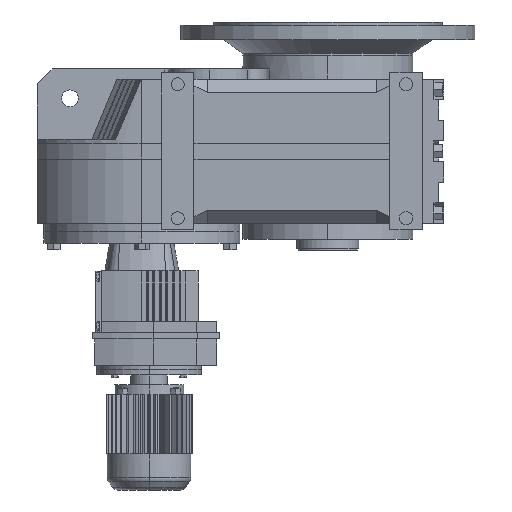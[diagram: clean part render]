
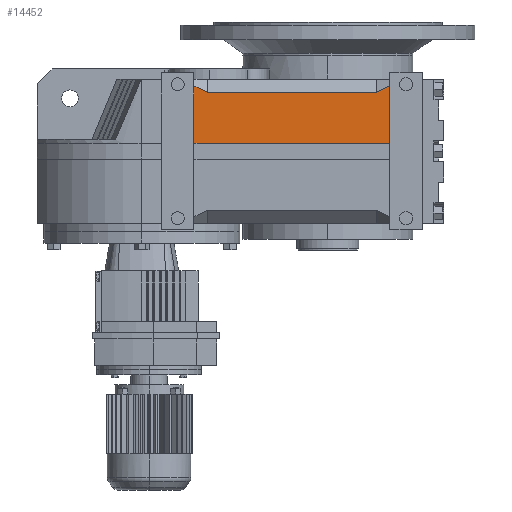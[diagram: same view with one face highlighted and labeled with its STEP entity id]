
A CAD part, left-side view. The second image highlights one B-rep face of the part: STEP entity #14452.
In plain terms, the highlighted planar face has unit normal (-1, 0, 0).
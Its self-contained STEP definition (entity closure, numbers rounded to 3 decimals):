
#318 = PLANE('',#319);
#319 = AXIS2_PLACEMENT_3D('',#320,#321,#322);
#320 = CARTESIAN_POINT('',(-162.4,-80.,3.));
#321 = DIRECTION('',(0.,-1.,0.));
#322 = DIRECTION('',(0.,0.,-1.));
#346 = PLANE('',#347);
#347 = AXIS2_PLACEMENT_3D('',#348,#349,#350);
#348 = CARTESIAN_POINT('',(-286.747,-80.,127.347));
#349 = DIRECTION('',(-0.664,-0.342,0.664));
#350 = DIRECTION('',(0.707,0.,0.707)
  );
#374 = PLANE('',#375);
#375 = AXIS2_PLACEMENT_3D('',#376,#377,#378);
#376 = CARTESIAN_POINT('',(-170.4,1.,233.4));
#377 = DIRECTION('',(-0.707,0.,0.707));
#378 = DIRECTION('',(0.707,0.,0.707));
#402 = PLANE('',#403);
#403 = AXIS2_PLACEMENT_3D('',#404,#405,#406);
#404 = CARTESIAN_POINT('',(-286.747,-380.,127.347));
#405 = DIRECTION('',(-0.664,0.342,0.664));
#406 = DIRECTION('',(0.707,0.,0.707)
  );
#430 = PLANE('',#431);
#431 = AXIS2_PLACEMENT_3D('',#432,#433,#434);
#432 = CARTESIAN_POINT('',(-162.4,-380.,3.));
#433 = DIRECTION('',(0.,1.,0.));
#434 = DIRECTION('',(0.,0.,1.));
#5556 = VERTEX_POINT('',#5557);
#5557 = CARTESIAN_POINT('',(-190.4,-360.,213.4));
#5578 = EDGE_CURVE('',#5579,#5556,#5581,.T.);
#5579 = VERTEX_POINT('',#5580);
#5580 = CARTESIAN_POINT('',(-190.4,-380.,223.695));
#5581 = SURFACE_CURVE('',#5582,(#5586,#5593),.PCURVE_S1.);
#5582 = LINE('',#5583,#5584);
#5583 = CARTESIAN_POINT('',(-190.4,-449.565,259.502));
#5584 = VECTOR('',#5585,1.);
#5585 = DIRECTION('',(0.,0.889,-0.458));
#5586 = PCURVE('',#402,#5587);
#5587 = DEFINITIONAL_REPRESENTATION('',(#5588),#5592);
#5588 = LINE('',#5589,#5590);
#5589 = CARTESIAN_POINT('',(161.575,-74.029));
#5590 = VECTOR('',#5591,1.);
#5591 = DIRECTION('',(-0.324,0.946));
#5592 = ( GEOMETRIC_REPRESENTATION_CONTEXT(2) 
PARAMETRIC_REPRESENTATION_CONTEXT() REPRESENTATION_CONTEXT('2D SPACE',''
  ) );
#5593 = PCURVE('',#5594,#5599);
#5594 = PLANE('',#5595);
#5595 = AXIS2_PLACEMENT_3D('',#5596,#5597,#5598);
#5596 = CARTESIAN_POINT('',(-190.4,-463.,233.4));
#5597 = DIRECTION('',(1.,0.,0.));
#5598 = DIRECTION('',(0.,0.,-1.));
#5599 = DEFINITIONAL_REPRESENTATION('',(#5600),#5604);
#5600 = LINE('',#5601,#5602);
#5601 = CARTESIAN_POINT('',(-26.102,13.435));
#5602 = VECTOR('',#5603,1.);
#5603 = DIRECTION('',(0.458,0.889));
#5604 = ( GEOMETRIC_REPRESENTATION_CONTEXT(2) 
PARAMETRIC_REPRESENTATION_CONTEXT() REPRESENTATION_CONTEXT('2D SPACE',''
  ) );
#7061 = EDGE_CURVE('',#7062,#5579,#7064,.T.);
#7062 = VERTEX_POINT('',#7063);
#7063 = CARTESIAN_POINT('',(-190.4,-380.,135.));
#7064 = SURFACE_CURVE('',#7065,(#7069,#7076),.PCURVE_S1.);
#7065 = LINE('',#7066,#7067);
#7066 = CARTESIAN_POINT('',(-190.4,-380.,233.4));
#7067 = VECTOR('',#7068,1.);
#7068 = DIRECTION('',(0.,0.,1.));
#7069 = PCURVE('',#430,#7070);
#7070 = DEFINITIONAL_REPRESENTATION('',(#7071),#7075);
#7071 = LINE('',#7072,#7073);
#7072 = CARTESIAN_POINT('',(230.4,-28.));
#7073 = VECTOR('',#7074,1.);
#7074 = DIRECTION('',(1.,0.));
#7075 = ( GEOMETRIC_REPRESENTATION_CONTEXT(2) 
PARAMETRIC_REPRESENTATION_CONTEXT() REPRESENTATION_CONTEXT('2D SPACE',''
  ) );
#7076 = PCURVE('',#5594,#7077);
#7077 = DEFINITIONAL_REPRESENTATION('',(#7078),#7082);
#7078 = LINE('',#7079,#7080);
#7079 = CARTESIAN_POINT('',(0.,83.));
#7080 = VECTOR('',#7081,1.);
#7081 = DIRECTION('',(-1.,0.));
#7082 = ( GEOMETRIC_REPRESENTATION_CONTEXT(2) 
PARAMETRIC_REPRESENTATION_CONTEXT() REPRESENTATION_CONTEXT('2D SPACE',''
  ) );
#7100 = PLANE('',#7101);
#7101 = AXIS2_PLACEMENT_3D('',#7102,#7103,#7104);
#7102 = CARTESIAN_POINT('',(-14.299,1.,135.));
#7103 = DIRECTION('',(0.,0.,-1.));
#7104 = DIRECTION('',(-1.,0.,0.));
#8399 = EDGE_CURVE('',#8400,#8402,#8404,.T.);
#8400 = VERTEX_POINT('',#8401);
#8401 = CARTESIAN_POINT('',(-190.4,-100.,213.4));
#8402 = VERTEX_POINT('',#8403);
#8403 = CARTESIAN_POINT('',(-190.4,-80.,223.695));
#8404 = SURFACE_CURVE('',#8405,(#8409,#8416),.PCURVE_S1.);
#8405 = LINE('',#8406,#8407);
#8406 = CARTESIAN_POINT('',(-190.4,-378.83,69.877));
#8407 = VECTOR('',#8408,1.);
#8408 = DIRECTION('',(0.,0.889,0.458));
#8409 = PCURVE('',#346,#8410);
#8410 = DEFINITIONAL_REPRESENTATION('',(#8411),#8415);
#8411 = LINE('',#8412,#8413);
#8412 = CARTESIAN_POINT('',(27.491,-318.008));
#8413 = VECTOR('',#8414,1.);
#8414 = DIRECTION('',(0.324,0.946));
#8415 = ( GEOMETRIC_REPRESENTATION_CONTEXT(2) 
PARAMETRIC_REPRESENTATION_CONTEXT() REPRESENTATION_CONTEXT('2D SPACE',''
  ) );
#8416 = PCURVE('',#5594,#8417);
#8417 = DEFINITIONAL_REPRESENTATION('',(#8418),#8422);
#8418 = LINE('',#8419,#8420);
#8419 = CARTESIAN_POINT('',(163.523,84.17));
#8420 = VECTOR('',#8421,1.);
#8421 = DIRECTION('',(-0.458,0.889));
#8422 = ( GEOMETRIC_REPRESENTATION_CONTEXT(2) 
PARAMETRIC_REPRESENTATION_CONTEXT() REPRESENTATION_CONTEXT('2D SPACE',''
  ) );
#10456 = EDGE_CURVE('',#5556,#8400,#10457,.T.);
#10457 = SURFACE_CURVE('',#10458,(#10462,#10469),.PCURVE_S1.);
#10458 = LINE('',#10459,#10460);
#10459 = CARTESIAN_POINT('',(-190.4,-80.,213.4));
#10460 = VECTOR('',#10461,1.);
#10461 = DIRECTION('',(0.,1.,0.));
#10462 = PCURVE('',#374,#10463);
#10463 = DEFINITIONAL_REPRESENTATION('',(#10464),#10468);
#10464 = LINE('',#10465,#10466);
#10465 = CARTESIAN_POINT('',(-28.284,-81.));
#10466 = VECTOR('',#10467,1.);
#10467 = DIRECTION('',(0.,1.));
#10468 = ( GEOMETRIC_REPRESENTATION_CONTEXT(2) 
PARAMETRIC_REPRESENTATION_CONTEXT() REPRESENTATION_CONTEXT('2D SPACE',''
  ) );
#10469 = PCURVE('',#5594,#10470);
#10470 = DEFINITIONAL_REPRESENTATION('',(#10471),#10475);
#10471 = LINE('',#10472,#10473);
#10472 = CARTESIAN_POINT('',(20.,383.));
#10473 = VECTOR('',#10474,1.);
#10474 = DIRECTION('',(0.,1.));
#10475 = ( GEOMETRIC_REPRESENTATION_CONTEXT(2) 
PARAMETRIC_REPRESENTATION_CONTEXT() REPRESENTATION_CONTEXT('2D SPACE',''
  ) );
#10581 = VERTEX_POINT('',#10582);
#10582 = CARTESIAN_POINT('',(-190.4,-80.,135.));
#10603 = EDGE_CURVE('',#8402,#10581,#10604,.T.);
#10604 = SURFACE_CURVE('',#10605,(#10609,#10616),.PCURVE_S1.);
#10605 = LINE('',#10606,#10607);
#10606 = CARTESIAN_POINT('',(-190.4,-80.,233.4));
#10607 = VECTOR('',#10608,1.);
#10608 = DIRECTION('',(0.,0.,-1.));
#10609 = PCURVE('',#318,#10610);
#10610 = DEFINITIONAL_REPRESENTATION('',(#10611),#10615);
#10611 = LINE('',#10612,#10613);
#10612 = CARTESIAN_POINT('',(-230.4,-28.));
#10613 = VECTOR('',#10614,1.);
#10614 = DIRECTION('',(1.,0.));
#10615 = ( GEOMETRIC_REPRESENTATION_CONTEXT(2) 
PARAMETRIC_REPRESENTATION_CONTEXT() REPRESENTATION_CONTEXT('2D SPACE',''
  ) );
#10616 = PCURVE('',#5594,#10617);
#10617 = DEFINITIONAL_REPRESENTATION('',(#10618),#10622);
#10618 = LINE('',#10619,#10620);
#10619 = CARTESIAN_POINT('',(0.,383.));
#10620 = VECTOR('',#10621,1.);
#10621 = DIRECTION('',(1.,0.));
#10622 = ( GEOMETRIC_REPRESENTATION_CONTEXT(2) 
PARAMETRIC_REPRESENTATION_CONTEXT() REPRESENTATION_CONTEXT('2D SPACE',''
  ) );
#14452 = ADVANCED_FACE('',(#14453),#5594,.F.);
#14453 = FACE_BOUND('',#14454,.T.);
#14454 = EDGE_LOOP('',(#14455,#14456,#14457,#14458,#14459,#14460));
#14455 = ORIENTED_EDGE('',*,*,#7061,.T.);
#14456 = ORIENTED_EDGE('',*,*,#5578,.T.);
#14457 = ORIENTED_EDGE('',*,*,#10456,.T.);
#14458 = ORIENTED_EDGE('',*,*,#8399,.T.);
#14459 = ORIENTED_EDGE('',*,*,#10603,.T.);
#14460 = ORIENTED_EDGE('',*,*,#14461,.F.);
#14461 = EDGE_CURVE('',#7062,#10581,#14462,.T.);
#14462 = SURFACE_CURVE('',#14463,(#14467,#14474),.PCURVE_S1.);
#14463 = LINE('',#14464,#14465);
#14464 = CARTESIAN_POINT('',(-190.4,-463.,135.));
#14465 = VECTOR('',#14466,1.);
#14466 = DIRECTION('',(0.,1.,0.));
#14467 = PCURVE('',#5594,#14468);
#14468 = DEFINITIONAL_REPRESENTATION('',(#14469),#14473);
#14469 = LINE('',#14470,#14471);
#14470 = CARTESIAN_POINT('',(98.4,0.));
#14471 = VECTOR('',#14472,1.);
#14472 = DIRECTION('',(0.,1.));
#14473 = ( GEOMETRIC_REPRESENTATION_CONTEXT(2) 
PARAMETRIC_REPRESENTATION_CONTEXT() REPRESENTATION_CONTEXT('2D SPACE',''
  ) );
#14474 = PCURVE('',#7100,#14475);
#14475 = DEFINITIONAL_REPRESENTATION('',(#14476),#14480);
#14476 = LINE('',#14477,#14478);
#14477 = CARTESIAN_POINT('',(176.101,-464.));
#14478 = VECTOR('',#14479,1.);
#14479 = DIRECTION('',(0.,1.));
#14480 = ( GEOMETRIC_REPRESENTATION_CONTEXT(2) 
PARAMETRIC_REPRESENTATION_CONTEXT() REPRESENTATION_CONTEXT('2D SPACE',''
  ) );
